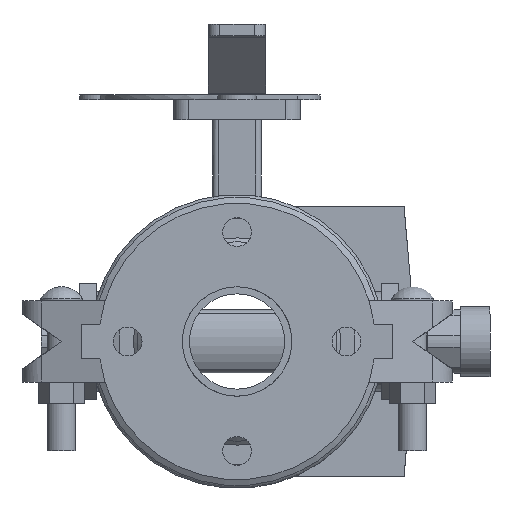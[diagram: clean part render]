
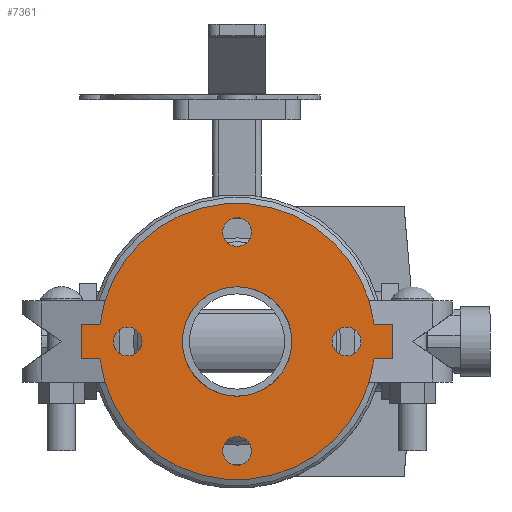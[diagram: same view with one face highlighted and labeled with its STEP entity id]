
A CAD part, front view. The second image highlights one B-rep face of the part: STEP entity #7361.
In plain terms, the highlighted planar face has unit normal (0, -1, 0) as drawn and (0, 0, -1) by its records, which use the part's own axes.
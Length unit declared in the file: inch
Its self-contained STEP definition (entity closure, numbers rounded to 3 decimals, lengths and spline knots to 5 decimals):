
#169=FACE_BOUND('',#903,.T.);
#170=FACE_BOUND('',#904,.T.);
#171=FACE_BOUND('',#905,.T.);
#172=FACE_BOUND('',#906,.T.);
#173=FACE_BOUND('',#907,.T.);
#258=PLANE('',#7982);
#495=FACE_OUTER_BOUND('',#902,.T.);
#902=EDGE_LOOP('',(#4708,#4709,#4710,#4711,#4712,#4713,#4714,#4715));
#903=EDGE_LOOP('',(#4716));
#904=EDGE_LOOP('',(#4717));
#905=EDGE_LOOP('',(#4718));
#906=EDGE_LOOP('',(#4719));
#907=EDGE_LOOP('',(#4720,#4721));
#1398=LINE('',#11185,#1956);
#1399=LINE('',#11187,#1957);
#1400=LINE('',#11189,#1958);
#1401=LINE('',#11193,#1959);
#1402=LINE('',#11195,#1960);
#1403=LINE('',#11196,#1961);
#1956=VECTOR('',#8880,0.3937);
#1957=VECTOR('',#8881,0.3937);
#1958=VECTOR('',#8882,0.3937);
#1959=VECTOR('',#8885,0.3937);
#1960=VECTOR('',#8886,0.3937);
#1961=VECTOR('',#8887,0.3937);
#2511=CIRCLE('',#7972,0.3125);
#2513=CIRCLE('',#7975,0.3125);
#2515=CIRCLE('',#7978,0.3125);
#2517=CIRCLE('',#7981,0.3125);
#2518=CIRCLE('',#7983,3.);
#2519=CIRCLE('',#7984,3.);
#2520=CIRCLE('',#7985,1.1875);
#2521=CIRCLE('',#7986,1.1875);
#2937=VERTEX_POINT('',#11159);
#2939=VERTEX_POINT('',#11165);
#2941=VERTEX_POINT('',#11171);
#2943=VERTEX_POINT('',#11177);
#2944=VERTEX_POINT('',#11181);
#2945=VERTEX_POINT('',#11182);
#2946=VERTEX_POINT('',#11184);
#2947=VERTEX_POINT('',#11186);
#2948=VERTEX_POINT('',#11188);
#2949=VERTEX_POINT('',#11190);
#2950=VERTEX_POINT('',#11192);
#2951=VERTEX_POINT('',#11194);
#2952=VERTEX_POINT('',#11197);
#2953=VERTEX_POINT('',#11198);
#3643=EDGE_CURVE('',#2937,#2937,#2511,.T.);
#3646=EDGE_CURVE('',#2939,#2939,#2513,.T.);
#3649=EDGE_CURVE('',#2941,#2941,#2515,.T.);
#3652=EDGE_CURVE('',#2943,#2943,#2517,.T.);
#3653=EDGE_CURVE('',#2944,#2945,#2518,.T.);
#3654=EDGE_CURVE('',#2945,#2946,#1398,.T.);
#3655=EDGE_CURVE('',#2946,#2947,#1399,.T.);
#3656=EDGE_CURVE('',#2947,#2948,#1400,.T.);
#3657=EDGE_CURVE('',#2948,#2949,#2519,.T.);
#3658=EDGE_CURVE('',#2949,#2950,#1401,.T.);
#3659=EDGE_CURVE('',#2950,#2951,#1402,.T.);
#3660=EDGE_CURVE('',#2951,#2944,#1403,.T.);
#3661=EDGE_CURVE('',#2952,#2953,#2520,.T.);
#3662=EDGE_CURVE('',#2953,#2952,#2521,.T.);
#4708=ORIENTED_EDGE('',*,*,#3653,.T.);
#4709=ORIENTED_EDGE('',*,*,#3654,.T.);
#4710=ORIENTED_EDGE('',*,*,#3655,.T.);
#4711=ORIENTED_EDGE('',*,*,#3656,.T.);
#4712=ORIENTED_EDGE('',*,*,#3657,.T.);
#4713=ORIENTED_EDGE('',*,*,#3658,.T.);
#4714=ORIENTED_EDGE('',*,*,#3659,.T.);
#4715=ORIENTED_EDGE('',*,*,#3660,.T.);
#4716=ORIENTED_EDGE('',*,*,#3643,.T.);
#4717=ORIENTED_EDGE('',*,*,#3646,.T.);
#4718=ORIENTED_EDGE('',*,*,#3649,.T.);
#4719=ORIENTED_EDGE('',*,*,#3652,.T.);
#4720=ORIENTED_EDGE('',*,*,#3661,.T.);
#4721=ORIENTED_EDGE('',*,*,#3662,.T.);
#7361=ADVANCED_FACE('',(#495,#169,#170,#171,#172,#173),#258,.T.);
#7972=AXIS2_PLACEMENT_3D('',#11161,#8853,#8854);
#7975=AXIS2_PLACEMENT_3D('',#11167,#8860,#8861);
#7978=AXIS2_PLACEMENT_3D('',#11173,#8867,#8868);
#7981=AXIS2_PLACEMENT_3D('',#11179,#8874,#8875);
#7982=AXIS2_PLACEMENT_3D('',#11180,#8876,#8877);
#7983=AXIS2_PLACEMENT_3D('',#11183,#8878,#8879);
#7984=AXIS2_PLACEMENT_3D('',#11191,#8883,#8884);
#7985=AXIS2_PLACEMENT_3D('',#11199,#8888,#8889);
#7986=AXIS2_PLACEMENT_3D('',#11200,#8890,#8891);
#8853=DIRECTION('center_axis',(0.,0.,1.));
#8854=DIRECTION('ref_axis',(0.,1.,0.));
#8860=DIRECTION('center_axis',(0.,0.,1.));
#8861=DIRECTION('ref_axis',(1.,0.,0.));
#8867=DIRECTION('center_axis',(0.,0.,1.));
#8868=DIRECTION('ref_axis',(0.,-1.,0.));
#8874=DIRECTION('center_axis',(0.,0.,1.));
#8875=DIRECTION('ref_axis',(-1.,0.,0.));
#8876=DIRECTION('center_axis',(0.,0.,-1.));
#8877=DIRECTION('ref_axis',(-1.,0.,0.));
#8878=DIRECTION('center_axis',(0.,0.,-1.));
#8879=DIRECTION('ref_axis',(-1.,0.,0.));
#8880=DIRECTION('',(0.,1.,0.));
#8881=DIRECTION('',(1.,0.,0.));
#8882=DIRECTION('',(0.,-1.,0.));
#8883=DIRECTION('center_axis',(0.,0.,-1.));
#8884=DIRECTION('ref_axis',(-1.,0.,0.));
#8885=DIRECTION('',(0.,-1.,0.));
#8886=DIRECTION('',(-1.,0.,0.));
#8887=DIRECTION('',(0.,1.,0.));
#8888=DIRECTION('center_axis',(0.,0.,1.));
#8889=DIRECTION('ref_axis',(-1.,0.,0.));
#8890=DIRECTION('center_axis',(0.,0.,1.));
#8891=DIRECTION('ref_axis',(-1.,0.,0.));
#11159=CARTESIAN_POINT('',(0.,2.0625,-0.375));
#11161=CARTESIAN_POINT('Origin',(0.,2.375,-0.375));
#11165=CARTESIAN_POINT('',(2.0625,0.,-0.375));
#11167=CARTESIAN_POINT('Origin',(2.375,0.,-0.375));
#11171=CARTESIAN_POINT('',(0.,-2.0625,-0.375));
#11173=CARTESIAN_POINT('Origin',(0.,-2.375,-0.375));
#11177=CARTESIAN_POINT('',(-2.0625,0.,-0.375));
#11179=CARTESIAN_POINT('Origin',(-2.375,0.,-0.375));
#11180=CARTESIAN_POINT('Origin',(0.,0.,-0.375));
#11181=CARTESIAN_POINT('',(-0.375,-2.97647,-0.375));
#11182=CARTESIAN_POINT('',(-0.375,2.97647,-0.375));
#11183=CARTESIAN_POINT('Origin',(0.,0.,-0.375));
#11184=CARTESIAN_POINT('',(-0.375,3.375,-0.375));
#11185=CARTESIAN_POINT('',(-0.375,-3.375,-0.375));
#11186=CARTESIAN_POINT('',(0.375,3.375,-0.375));
#11187=CARTESIAN_POINT('',(-0.375,3.375,-0.375));
#11188=CARTESIAN_POINT('',(0.375,2.97647,-0.375));
#11189=CARTESIAN_POINT('',(0.375,3.375,-0.375));
#11190=CARTESIAN_POINT('',(0.375,-2.97647,-0.375));
#11191=CARTESIAN_POINT('Origin',(0.,0.,-0.375));
#11192=CARTESIAN_POINT('',(0.375,-3.375,-0.375));
#11193=CARTESIAN_POINT('',(0.375,3.375,-0.375));
#11194=CARTESIAN_POINT('',(-0.375,-3.375,-0.375));
#11195=CARTESIAN_POINT('',(0.375,-3.375,-0.375));
#11196=CARTESIAN_POINT('',(-0.375,-3.375,-0.375));
#11197=CARTESIAN_POINT('',(0.375,1.12673,-0.375));
#11198=CARTESIAN_POINT('',(1.1875,0.,-0.375));
#11199=CARTESIAN_POINT('Origin',(0.,0.,-0.375));
#11200=CARTESIAN_POINT('Origin',(0.,0.,-0.375));
